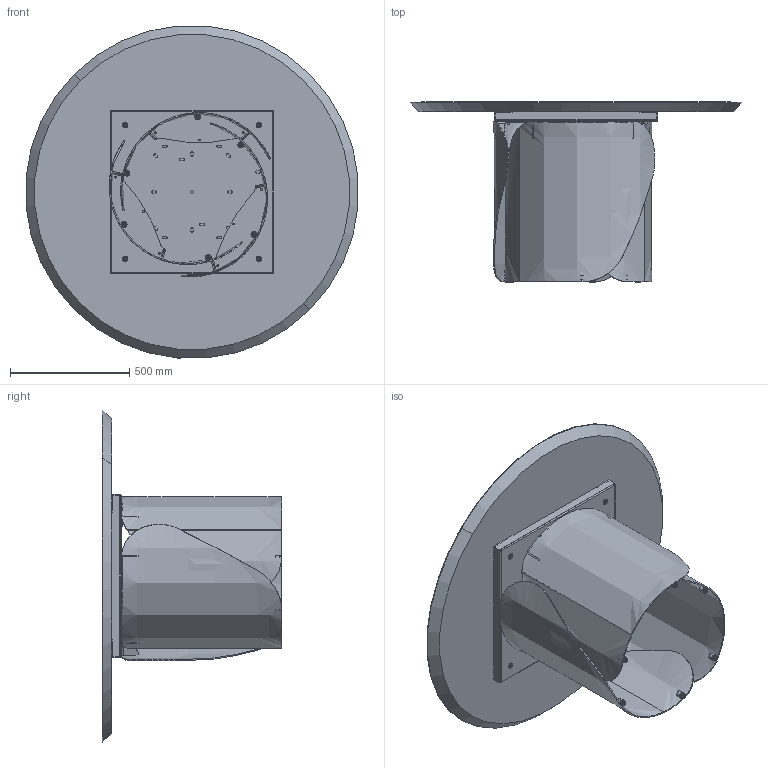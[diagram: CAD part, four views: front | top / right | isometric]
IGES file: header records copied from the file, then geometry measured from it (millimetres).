
Start section: SolidWorks IGES file using analytic representation for surfaces
Global section: file name: Y:\eforma\TECNICO\SOLIDWORKS\E-FORMA\1-TAVOLI\ONDA\02 parts\ON06W.IGS; native system: SolidWorks 2022; preprocessor: SolidWorks 2022; author: eforma.tech; date: 240806.153024; units: millimetre
Bounding box: 1394.67 x 756 x 1394.67 mm (x, y, z)
Volume: 69373752.1 mm3; surface area: 7799223.2 mm2
Topology: 62 solids, 62 shells, 1703 faces, 4015 edges, 2464 vertices
Faces by surface type: revolution 969, plane 674, bspline 60
